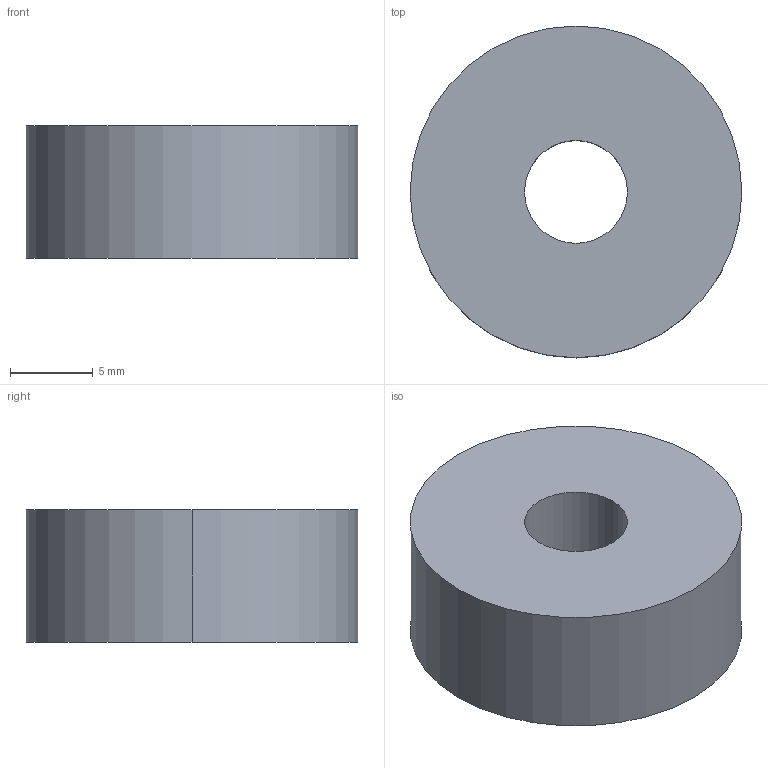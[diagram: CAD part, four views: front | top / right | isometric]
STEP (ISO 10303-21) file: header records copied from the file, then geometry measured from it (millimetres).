
FILE_DESCRIPTION((''),'2;1');
FILE_NAME('0000205724','2024-02-27T13:35:59',('Wyndorps'),(''),'CREO PARAMETRIC BY PTC INC, 2022484','CREO PARAMETRIC BY PTC INC, 2022484','');
FILE_SCHEMA(('CONFIG_CONTROL_DESIGN'));
Length unit declared in the file: millimetre
Products named in the file (1): 0000205724
Bounding box: 20 x 20 x 8 mm (x, y, z)
Volume: 2271.7 mm3; surface area: 1226.4 mm2
Topology: 1 solids, 1 shells, 6 faces, 12 edges, 8 vertices
Faces by surface type: cylinder 4, plane 2
Entity records: 206 total; most frequent: DIRECTION 32, CARTESIAN_POINT 26, ORIENTED_EDGE 24, AXIS2_PLACEMENT_3D 14, EDGE_CURVE 12, VERTEX_POINT 8, EDGE_LOOP 8, CIRCLE 8
